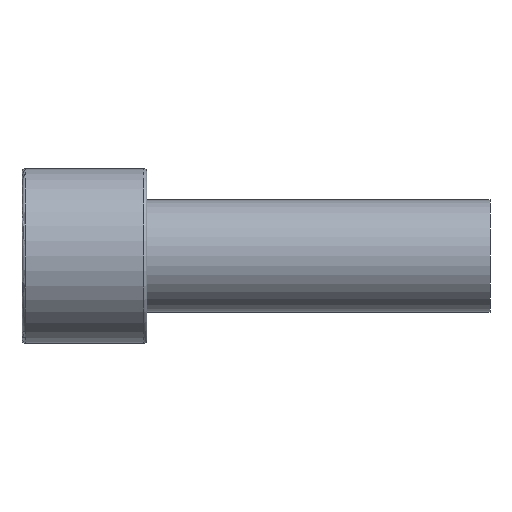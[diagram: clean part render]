
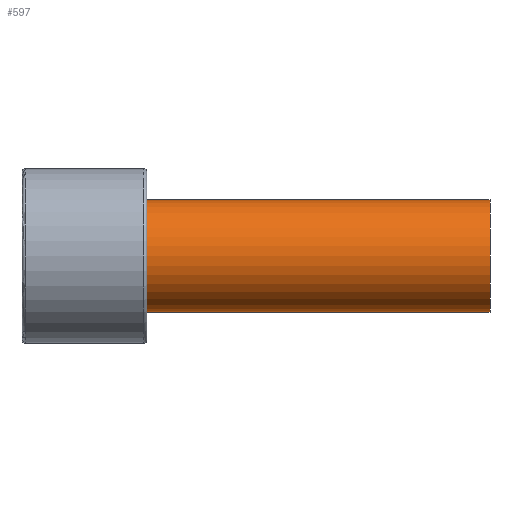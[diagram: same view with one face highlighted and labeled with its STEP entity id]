
A CAD part, front view. The second image highlights one B-rep face of the part: STEP entity #597.
In plain terms, the highlighted cylindrical face has radius 9 mm (diameter 18 mm), a partial arc.
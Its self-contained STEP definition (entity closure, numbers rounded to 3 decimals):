
#431=CARTESIAN_POINT('Vertex',(75.,0.,9.)) ;
#434=CARTESIAN_POINT('Axis2P3D Location',(75.,0.,0.)) ;
#438=CARTESIAN_POINT('Vertex',(75.,-9.,0.)) ;
#441=CARTESIAN_POINT('Axis2P3D Location',(75.,0.,0.)) ;
#445=CARTESIAN_POINT('Vertex',(75.,0.,-9.)) ;
#537=CARTESIAN_POINT('Line Origine',(75.,0.,9.)) ;
#541=CARTESIAN_POINT('Vertex',(20.,0.,9.)) ;
#544=CARTESIAN_POINT('Line Origine',(75.,0.,-9.)) ;
#548=CARTESIAN_POINT('Vertex',(20.,0.,-9.)) ;
#572=CARTESIAN_POINT('Axis2P3D Location',(75.,0.,0.)) ;
#577=CARTESIAN_POINT('Axis2P3D Location',(20.,0.,0.)) ;
#581=CARTESIAN_POINT('Vertex',(20.,-9.,0.)) ;
#584=CARTESIAN_POINT('Axis2P3D Location',(20.,0.,0.)) ;
#435=DIRECTION('Axis2P3D Direction',(1.,0.,-0.)) ;
#442=DIRECTION('Axis2P3D Direction',(1.,0.,-0.)) ;
#538=DIRECTION('Vector Direction',(-1.,0.,0.)) ;
#545=DIRECTION('Vector Direction',(-1.,0.,0.)) ;
#573=DIRECTION('Axis2P3D Direction',(-1.,-0.,-0.)) ;
#574=DIRECTION('Axis2P3D XDirection',(0.,0.,-1.)) ;
#578=DIRECTION('Axis2P3D Direction',(-1.,-0.,-0.)) ;
#585=DIRECTION('Axis2P3D Direction',(-1.,-0.,-0.)) ;
#436=AXIS2_PLACEMENT_3D('Circle Axis2P3D',#434,#435,$) ;
#443=AXIS2_PLACEMENT_3D('Circle Axis2P3D',#441,#442,$) ;
#575=AXIS2_PLACEMENT_3D('Cylinder Axis2P3D',#572,#573,#574) ;
#579=AXIS2_PLACEMENT_3D('Circle Axis2P3D',#577,#578,$) ;
#586=AXIS2_PLACEMENT_3D('Circle Axis2P3D',#584,#585,$) ;
#590=ORIENTED_EDGE('',*,*,#550,.T.) ;
#591=ORIENTED_EDGE('',*,*,#447,.F.) ;
#592=ORIENTED_EDGE('',*,*,#440,.F.) ;
#593=ORIENTED_EDGE('',*,*,#543,.T.) ;
#594=ORIENTED_EDGE('',*,*,#583,.T.) ;
#595=ORIENTED_EDGE('',*,*,#588,.T.) ;
#539=VECTOR('Line Direction',#538,1.) ;
#546=VECTOR('Line Direction',#545,1.) ;
#597=ADVANCED_FACE('367F-18X75',(#596),#576,.T.) ;
#437=CIRCLE('generated circle',#436,9.) ;
#444=CIRCLE('generated circle',#443,9.) ;
#580=CIRCLE('generated circle',#579,9.) ;
#587=CIRCLE('generated circle',#586,9.) ;
#576=CYLINDRICAL_SURFACE('generated cylinder',#575,9.) ;
#440=EDGE_CURVE('',#432,#439,#437,.T.) ;
#447=EDGE_CURVE('',#439,#446,#444,.T.) ;
#543=EDGE_CURVE('',#432,#542,#540,.T.) ;
#550=EDGE_CURVE('',#549,#446,#547,.F.) ;
#583=EDGE_CURVE('',#542,#582,#580,.F.) ;
#588=EDGE_CURVE('',#582,#549,#587,.F.) ;
#589=EDGE_LOOP('',(#590,#591,#592,#593,#594,#595)) ;
#596=FACE_OUTER_BOUND('',#589,.T.) ;
#540=LINE('Line',#537,#539) ;
#547=LINE('Line',#544,#546) ;
#432=VERTEX_POINT('',#431) ;
#439=VERTEX_POINT('',#438) ;
#446=VERTEX_POINT('',#445) ;
#542=VERTEX_POINT('',#541) ;
#549=VERTEX_POINT('',#548) ;
#582=VERTEX_POINT('',#581) ;
